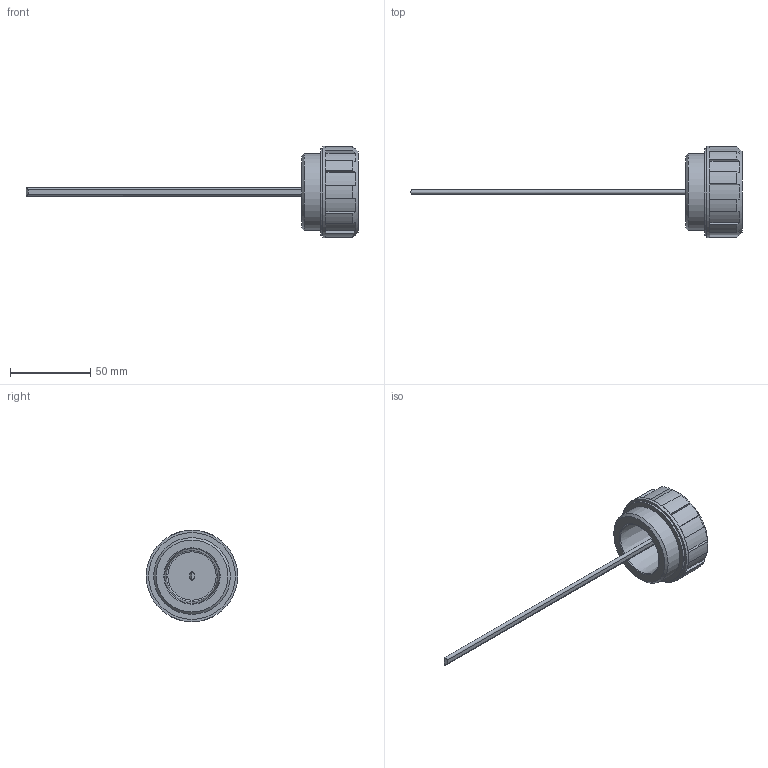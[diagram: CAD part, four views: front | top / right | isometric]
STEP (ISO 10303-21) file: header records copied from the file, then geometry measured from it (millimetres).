
FILE_DESCRIPTION( ( 'STEP AP203' ), '1' );
FILE_NAME( 'C:/Temp/Ganter_Step_05_03_2020/data/3_5/gn548_1/Plug GN 548.1-G11_2-B.stp', '2020-03-12T13:35:47', ( 'License CC BY-ND 4.0' ), ( 'CADENAS' ), ' ', 'PARTsolutions', ' ' );
FILE_SCHEMA( ( 'CONFIG_CONTROL_DESIGN' ) );
Length unit declared in the file: millimetre
Products named in the file (1): _Plug GN 548.1-G11/2-B
Bounding box: 207 x 57 x 57 mm (x, y, z)
Volume: 52160.4 mm3; surface area: 17345 mm2
Topology: 1 solids, 1 shells, 62 faces, 159 edges, 105 vertices
Faces by surface type: plane 31, cylinder 26, cone 3, torus 2
Full cylindrical faces by diameter (mm): 47.803 x1, 51.818 x1, 54.15 x1, 57 x1
Entity records: 1909 total; most frequent: CARTESIAN_POINT 376, DIRECTION 315, ORIENTED_EDGE 298, EDGE_CURVE 149, AXIS2_PLACEMENT_3D 123, VERTEX_POINT 104, EDGE_LOOP 77, LINE 69
